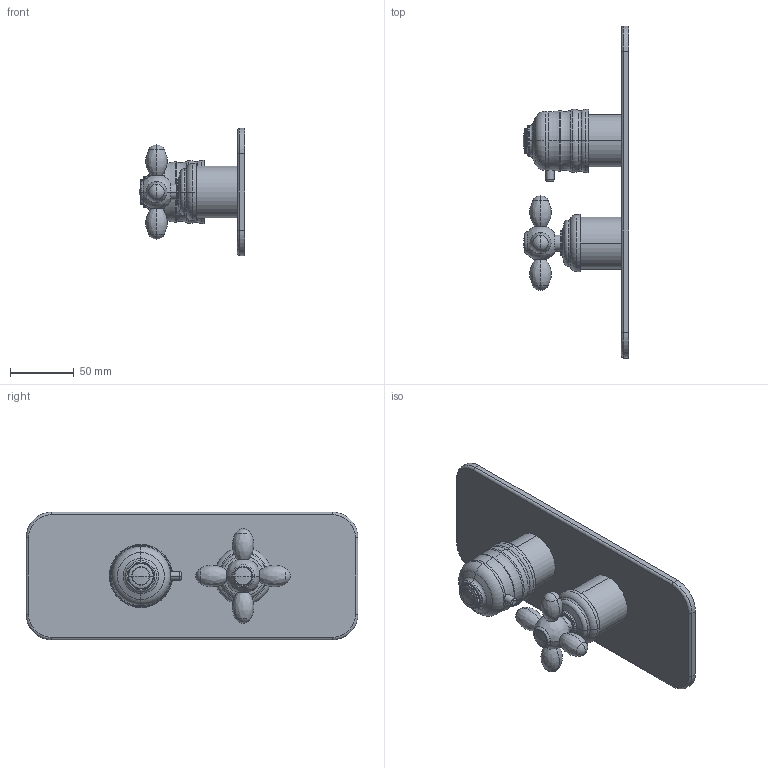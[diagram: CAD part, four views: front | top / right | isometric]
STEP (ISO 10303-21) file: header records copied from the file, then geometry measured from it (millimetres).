
FILE_DESCRIPTION((''),'2;1');
FILE_NAME('F5009X7_FILE_3D','2019-03-26T',('ivanv'),(''),'CREO PARAMETRIC BY PTC INC, 2016260','CREO PARAMETRIC BY PTC INC, 2016260','');
FILE_SCHEMA(('CONFIG_CONTROL_DESIGN'));
Length unit declared in the file: millimetre
Products named in the file (1): F5009X7_FILE_3D
Bounding box: 82.95 x 260 x 100 mm (x, y, z)
Volume: 125009.8 mm3; surface area: 111880.7 mm2
Topology: 6 solids, 7 shells, 779 faces, 2078 edges, 1317 vertices
Faces by surface type: plane 347, cylinder 225, torus 90, cone 77, bspline 28, sphere 12
Entity records: 36848 total; most frequent: CARTESIAN_POINT 17672, ORIENTED_EDGE 4124, DIRECTION 3909, EDGE_CURVE 2062, AXIS2_PLACEMENT_3D 1483, VERTEX_POINT 1317, VECTOR 943, LINE 943
